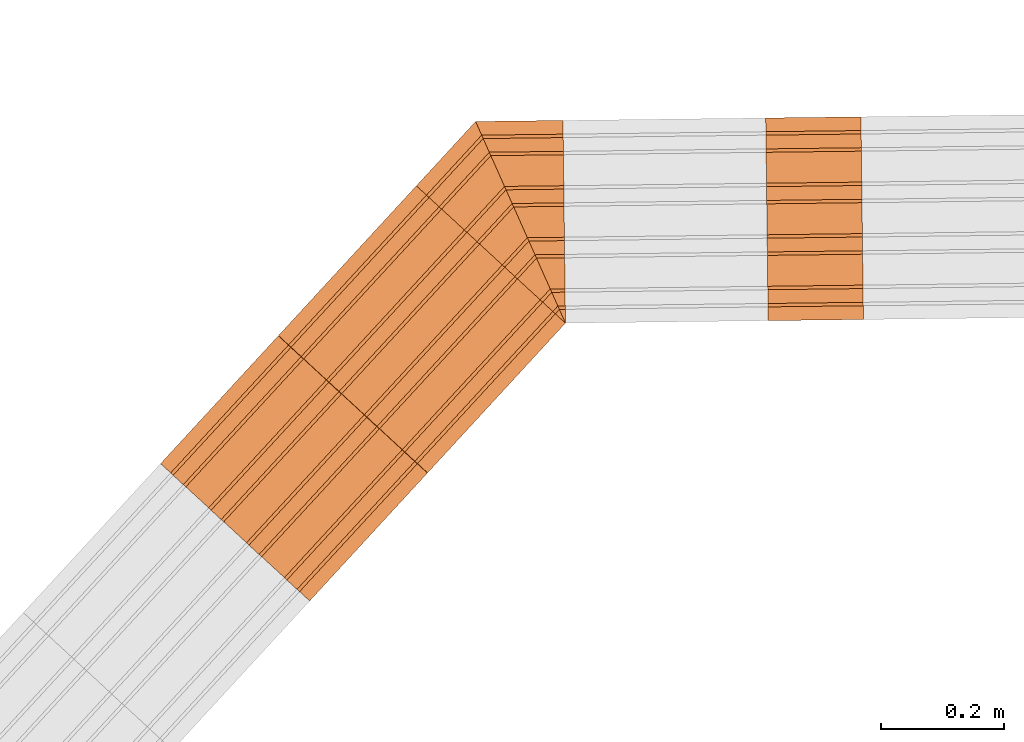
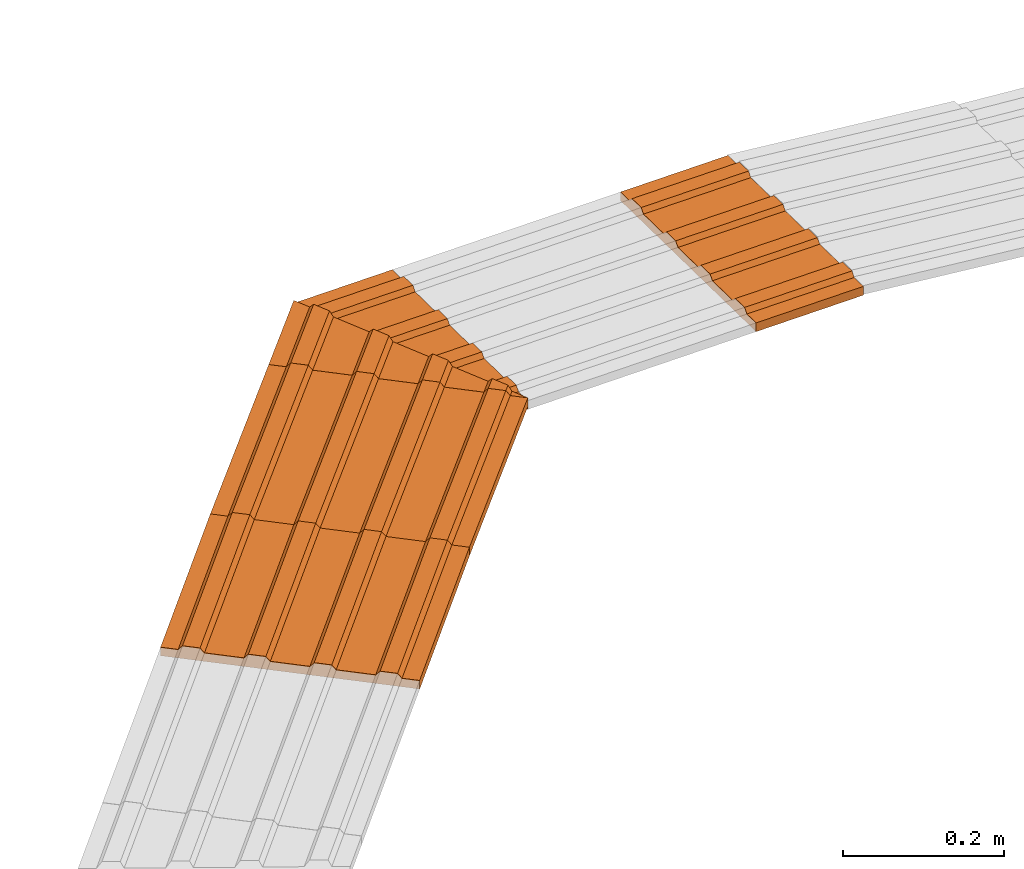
# One storey, part 223 of 237: 5 proxies.
"""IFC2X3 building model written with IfcOpenShell, lengths in millimetres."""

import ifcopenshell
import ifcopenshell.guid

model = None  # the IFC model being written
_history = None  # IfcOwnerHistory: only IFC2X3 demands one
_inside = {}  # id of a spatial element -> (the spatial element, [elements in it])
_under = {}  # id of a project, library or spatial element -> (it, [spatial elements below it])
_declared = {}  # id of a project -> (the project, [libraries it declares])
_typed = {}  # id of a type object -> (the type object, [elements of that type])
_made_of = {}  # id of a material, layer set ... -> (it, [elements and type objects made of it])


def new_model(schema):
    """Start an empty IFC model of exactly this schema.

    Asked for "IFC4X3", IfcOpenShell would pick the latest addendum, in which some entities
    have other attributes; the version numbers below select the first issue.
    IFC2X3 requires an IfcOwnerHistory on every rooted entity: one is made here for all.
    """
    global model, _history
    if schema == "IFC4X3":
        model = ifcopenshell.file(schema_version=(4, 3, 0, 0))
    else:
        model = ifcopenshell.file(schema=schema)
    _inside.clear()
    _under.clear()
    _declared.clear()
    _typed.clear()
    _made_of.clear()
    _history = None
    if model.schema == "IFC2X3":
        org = make("IfcOrganization", Name="unknown")
        user = make(
            "IfcPersonAndOrganization",
            ThePerson=make("IfcPerson", FamilyName="unknown"),
            TheOrganization=org,
        )
        app = make(
            "IfcApplication",
            ApplicationDeveloper=org,
            Version="unknown",
            ApplicationFullName="unknown",
            ApplicationIdentifier="unknown",
        )
        _history = make(
            "IfcOwnerHistory",
            OwningUser=user,
            OwningApplication=app,
            ChangeAction="ADDED",
            CreationDate=0,
        )
    return model


def make(cls, **values):
    """One entity of the class cls with the attributes given. An attribute that is None is left unset."""
    return model.create_entity(
        cls, **{name: value for name, value in values.items() if value is not None}
    )


def entity(cls, *values):
    """Any entity or typed value of the class cls, its attributes in the order of the schema. None: left unset."""
    e = model.create_entity(cls)
    for i, value in enumerate(values):
        if value is not None:
            e[i] = value
    return e


def rooted(cls, **values):
    """An entity with a GlobalId (a new one), such as an element, a storey or a relation."""
    return make(cls, GlobalId=ifcopenshell.guid.new(), OwnerHistory=_history, **values)


def si_unit(unit_type, name, prefix=None):
    """IfcSIUnit, for example si_unit("LENGTHUNIT", "METRE", prefix="MILLI")."""
    return make("IfcSIUnit", UnitType=unit_type, Prefix=prefix, Name=name)


def converted_unit(unit_type, name, factor, base, dimensions=None, offset=None):
    """IfcConversionBasedUnit, such as the inch: factor (a typed value) times the base unit."""
    return make(
        "IfcConversionBasedUnit"
        if offset is None
        else "IfcConversionBasedUnitWithOffset",
        ConversionOffset=offset,
        Dimensions=None
        if dimensions is None
        else entity("IfcDimensionalExponents", *dimensions),
        UnitType=unit_type,
        Name=name,
        ConversionFactor=make(
            "IfcMeasureWithUnit", ValueComponent=factor, UnitComponent=base
        ),
    )


def derived_unit(unit_type, elements):
    """IfcDerivedUnit: a product of units, each with its exponent."""
    return make(
        "IfcDerivedUnit",
        Elements=[
            make("IfcDerivedUnitElement", Unit=unit, Exponent=power)
            for unit, power in elements
        ],
        UnitType=unit_type,
    )


def money_unit(currency):
    """IfcMonetaryUnit."""
    return make("IfcMonetaryUnit", Currency=currency)


def assignment(units):
    """IfcUnitAssignment: the units of a project."""
    return None if units is None else make("IfcUnitAssignment", Units=units)


def point(xyz):
    """IfcCartesianPoint."""
    return None if xyz is None else make("IfcCartesianPoint", Coordinates=xyz)


def direction(xyz):
    """IfcDirection."""
    return None if xyz is None else make("IfcDirection", DirectionRatios=xyz)


def frame(location, z_axis=None, x_axis=None):
    """IfcAxis2Placement3D, a coordinate frame: its origin and axes. An axis left out is left unset."""
    return make(
        "IfcAxis2Placement3D",
        Location=point(location),
        Axis=direction(z_axis),
        RefDirection=direction(x_axis),
    )


def origin_with_axes():
    """The frame at (0, 0, 0) with the z axis (0, 0, 1) and the x axis (1, 0, 0) written out."""
    return frame((0.0, 0.0, 0.0), z_axis=(0.0, 0.0, 1.0), x_axis=(1.0, 0.0, 0.0))


def place(relative_to, where):
    """IfcLocalPlacement: puts the frame where relative to a parent placement (None: the world)."""
    return make(
        "IfcLocalPlacement", PlacementRelTo=relative_to, RelativePlacement=where
    )


def context(
    kind, dimensions, precision=None, world=None, true_north=None, identifier=None
):
    """IfcGeometricRepresentationContext, for example the 3D "Model" context."""
    return make(
        "IfcGeometricRepresentationContext",
        ContextIdentifier=identifier,
        ContextType=kind,
        CoordinateSpaceDimension=dimensions,
        Precision=precision,
        WorldCoordinateSystem=world,
        TrueNorth=true_north,
    )


def subcontext(parent, identifier, kind, view, scale=None):
    """IfcGeometricRepresentationSubContext, for example "Body" below "Model"."""
    return make(
        "IfcGeometricRepresentationSubContext",
        ContextIdentifier=identifier,
        ContextType=kind,
        ParentContext=parent,
        TargetScale=scale,
        TargetView=view,
    )


def project(units=None, contexts=None):
    """IfcProject with its units and contexts."""
    return rooted(
        "IfcProject",
        Name="project",
        RepresentationContexts=contexts,
        UnitsInContext=assignment(units),
    )


def spatial(cls, under=None, at=None, **own):
    """A site, building, storey or space (cls), placed at a placement, below another one or the project."""
    s = rooted(cls, ObjectPlacement=at, **own)
    if under is not None:
        _under.setdefault(under.id(), (under, []))[1].append(s)
    return s


def faces_of(points, faces, orient=None, outer=None):
    """IfcFace entities. A face is a list of loops; a loop is a list of indices into points, from 0.

    orient and outer hold one flag for each loop. By default every Orientation is true, the
    first loop of a face is its IfcFaceOuterBound and the others are IfcFaceBound.
    """
    made = []
    for i, loops in enumerate(faces):
        bounds = []
        for j, loop in enumerate(loops):
            is_outer = j == 0 if outer is None else outer[i][j]
            bounds.append(
                make(
                    "IfcFaceOuterBound" if is_outer else "IfcFaceBound",
                    Bound=make("IfcPolyLoop", Polygon=[points[k] for k in loop]),
                    Orientation=True if orient is None else orient[i][j],
                )
            )
        made.append(make("IfcFace", Bounds=bounds))
    return made


def open_shell(faces, orient=None, outer=None):
    """The faces of one IfcOpenShell. surface_model builds it on its shared points."""
    return ("IfcOpenShell", faces, orient, outer)


def faceted_brep(points, faces, orient=None, outer=None, voids=None):
    """IfcFacetedBrep: a solid bounded by flat faces; with voids (closed shells), ...WithVoids."""
    shared = [point(p) for p in points]
    hull = make("IfcClosedShell", CfsFaces=faces_of(shared, faces, orient, outer))
    if voids is None:
        return make("IfcFacetedBrep", Outer=hull)
    return make(
        "IfcFacetedBrepWithVoids",
        Outer=hull,
        Voids=[
            make(cls, CfsFaces=faces_of(shared, fs, o, b)) for cls, fs, o, b in voids
        ],
    )


def surface_model(cls, points, shells):
    """IfcFaceBasedSurfaceModel or IfcShellBasedSurfaceModel (cls): surfaces that need not close."""
    shared = [point(p) for p in points]
    made = [make(c, CfsFaces=faces_of(shared, fs, o, b)) for c, fs, o, b in shells]
    if cls == "IfcFaceBasedSurfaceModel":
        return make(cls, FbsmFaces=made)
    return make(cls, SbsmBoundary=made)


def shape(context_of_items, identifier, shape_type, items):
    """IfcShapeRepresentation: the items that make up one representation, for example the "Body"."""
    return make(
        "IfcShapeRepresentation",
        ContextOfItems=context_of_items,
        RepresentationIdentifier=identifier,
        RepresentationType=shape_type,
        Items=items,
    )


def made_of(thing, what):
    """Note that an element or type object is made of a material, layer set ...; save() writes the relation."""
    if what is not None:
        _made_of.setdefault(what.id(), (what, []))[1].append(thing)
    return thing


def type_object(cls, material=None, **own):
    """A type object (cls), such as IfcWallType, which elements share."""
    return made_of(rooted(cls, **own), material)


def element(
    cls,
    number,
    at=None,
    inside=None,
    cuts=None,
    type_object=None,
    material=None,
    context=None,
    identifier="Body",
    shape_type=None,
    held_by="IfcProductDefinitionShape",
    body=None,
    shapes=None,
    **own,
):
    """One element of the class cls, such as IfcWall. Its Tag is "e" and its number.

    at: its placement. inside: the storey or other place that contains it. cuts: it is an
    opening in that element (IfcRelVoidsElement). A single representation is given by context,
    identifier, shape_type and body (its items); several are given by shapes. held_by: the class
    of the entity that holds the representations. save() writes the other relations.
    """
    e = rooted(cls, Tag="e%d" % number, ObjectPlacement=at, **own)
    if body is not None:
        shapes = [shape(context, identifier, shape_type, body)]
    if shapes is not None:
        e.Representation = make(held_by, Representations=shapes)
    if inside is not None:
        _inside.setdefault(inside.id(), (inside, []))[1].append(e)
    if cuts is not None:
        rooted(
            "IfcRelVoidsElement", RelatingBuildingElement=cuts, RelatedOpeningElement=e
        )
    if type_object is not None:
        _typed.setdefault(type_object.id(), (type_object, []))[1].append(e)
    return made_of(e, material)


def aggregate(whole, parts):
    """IfcRelAggregates: a whole, such as a stair, and the parts it consists of."""
    return rooted("IfcRelAggregates", RelatingObject=whole, RelatedObjects=parts)


def save(model, path):
    """Write the relations noted so far, then the file.

    IfcRelAggregates (storeys below a building ...), IfcRelContainedInSpatialStructure (elements
    in a storey), IfcRelDefinesByType, IfcRelAssociatesMaterial and IfcRelDeclares: one each for
    every whole, place, type object, material and project.
    """
    for whole, parts in _under.values():
        aggregate(whole, parts)
    for where, things in _inside.values():
        rooted(
            "IfcRelContainedInSpatialStructure",
            RelatedElements=things,
            RelatingStructure=where,
        )
    for kind, things in _typed.values():
        rooted("IfcRelDefinesByType", RelatedObjects=things, RelatingType=kind)
    for what, things in _made_of.values():
        rooted("IfcRelAssociatesMaterial", RelatedObjects=things, RelatingMaterial=what)
    for by, libraries in _declared.values():
        rooted("IfcRelDeclares", RelatingContext=by, RelatedDefinitions=libraries)
    model.write(path)


model = new_model("IFC2X3")

# Units and contexts
model_context = context("Model", 3, precision=0.01, world=origin_with_axes(), true_north=direction((0.0, 1.0)))
body_context = subcontext(model_context, "Body", "Model", "MODEL_VIEW")
ifc_project = project(units=[si_unit("LENGTHUNIT", "METRE", prefix="MILLI"), si_unit("AREAUNIT", "SQUARE_METRE"), si_unit("VOLUMEUNIT", "CUBIC_METRE"), converted_unit("PLANEANGLEUNIT", "DEGREE", entity("IfcPlaneAngleMeasure", 0.0174532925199), si_unit("PLANEANGLEUNIT", "RADIAN"), dimensions=[0, 0, 0, 0, 0, 0, 0]), money_unit("USD"), converted_unit("TIMEUNIT", "Year", entity("IfcTimeMeasure", 31556926.0), si_unit("TIMEUNIT", "SECOND"), dimensions=[0, 0, 1, 0, 0, 0, 0]), si_unit("MASSUNIT", "GRAM", prefix="KILO"), si_unit("THERMODYNAMICTEMPERATUREUNIT", "DEGREE_CELSIUS"), si_unit("LUMINOUSINTENSITYUNIT", "LUMEN"), si_unit("ENERGYUNIT", "JOULE", prefix="MEGA"), derived_unit("THERMALCONDUCTANCEUNIT", [(si_unit("POWERUNIT", "WATT"), 1), (si_unit("LENGTHUNIT", "METRE"), -1), (si_unit("THERMODYNAMICTEMPERATUREUNIT", "KELVIN"), -1)]), derived_unit("SPECIFICHEATCAPACITYUNIT", [(si_unit("ENERGYUNIT", "JOULE"), 1), (si_unit("MASSUNIT", "GRAM", prefix="KILO"), -1), (si_unit("THERMODYNAMICTEMPERATUREUNIT", "KELVIN"), -1)]), derived_unit("MASSDENSITYUNIT", [(si_unit("MASSUNIT", "GRAM", prefix="KILO"), 1), (si_unit("VOLUMEUNIT", "CUBIC_METRE"), -1)])], contexts=[model_context])

# Site, building, storey
site_placement = place(None, origin_with_axes())
site = spatial("IfcSite", under=ifc_project, at=site_placement, Name="Local", CompositionType="ELEMENT")
building_placement = place(site_placement, origin_with_axes())
building = spatial("IfcBuilding", under=site, at=building_placement, Name="Construção", CompositionType="ELEMENT")
storey_placement = place(building_placement, origin_with_axes())
storey = spatial("IfcBuildingStorey", under=building, at=storey_placement, Name="Pavimento Térreo", CompositionType="ELEMENT", Elevation=0.0)

# Proxies
building_element_proxy_type_1 = type_object("IfcBuildingElementProxyType", Name="Piso Direcional 27", PredefinedType="NOTDEFINED")
proxy_1_placement = place(storey_placement, frame((48886.3520681, 36641.6889298, -1363.27878215), z_axis=(0.0, 0.0, 1.0), x_axis=(-0.999926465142, -0.012127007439, 0.0)))
element("IfcBuildingElementProxy", 1, at=proxy_1_placement, inside=storey, type_object=building_element_proxy_type_1, Name="Objeto-0055", context=body_context, shape_type="SurfaceModel", body=[
    surface_model("IfcShellBasedSurfaceModel", [(0.0, -47.2564877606, 4.02852049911), (155.131385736, -47.2564877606, 4.02852049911), (155.131385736, -41.6634730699, 10.6951871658), (0.0, -41.6634730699, 10.6951871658)], [open_shell([[[0, 1, 2, 3]]])]),
    surface_model("IfcShellBasedSurfaceModel", [(155.131385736, -153.523766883, -9.30481283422), (155.131385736, 176.464099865, -9.30481283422), (155.131385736, 176.464099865, 4.02852049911), (155.131385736, 154.092041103, 4.02852049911), (155.131385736, 148.499026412, 10.6951871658), (155.131385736, 126.12696765, 10.6951871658), (155.131385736, 120.533952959, 4.02852049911), (155.131385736, 70.1968207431, 4.02852049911), (155.131385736, 64.6038060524, 10.6951871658), (155.131385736, 42.2317472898, 10.6951871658), (155.131385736, 36.6387325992, 4.02852049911), (155.131385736, -13.6983996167, 4.02852049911), (155.131385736, -19.2914143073, 10.6951871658), (155.131385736, -41.6634730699, 10.6951871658), (155.131385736, -47.2564877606, 4.02852049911), (155.131385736, -97.5936199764, 4.02852049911), (155.131385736, -103.186634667, 10.6951871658), (155.131385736, -125.55869343, 10.6951871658), (155.131385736, -131.15170812, 4.02852049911), (155.131385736, -153.523766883, 4.02852049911)], [open_shell([[[0, 1, 2, 3, 4, 5, 6, 7, 8, 9, 10, 11, 12, 13, 14, 15, 16, 17, 18, 19]]])]),
    surface_model("IfcShellBasedSurfaceModel", [(0.0, -19.2914143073, 10.6951871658), (155.131385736, -19.2914143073, 10.6951871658), (155.131385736, -13.6983996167, 4.02852049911), (0.0, -13.6983996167, 4.02852049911)], [open_shell([[[0, 1, 2, 3]]])]),
    surface_model("IfcShellBasedSurfaceModel", [(0.0, -103.186634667, 10.6951871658), (155.131385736, -103.186634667, 10.6951871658), (155.131385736, -97.5936199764, 4.02852049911), (0.0, -97.5936199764, 4.02852049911)], [open_shell([[[0, 1, 2, 3]]])]),
    surface_model("IfcShellBasedSurfaceModel", [(0.0, 64.6038060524, 10.6951871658), (155.131385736, 64.6038060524, 10.6951871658), (155.131385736, 70.1968207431, 4.02852049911), (0.0, 70.1968207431, 4.02852049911)], [open_shell([[[0, 1, 2, 3]]])]),
    surface_model("IfcShellBasedSurfaceModel", [(0.0, 36.6387325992, 4.02852049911), (155.131385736, 36.6387325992, 4.02852049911), (155.131385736, 42.2317472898, 10.6951871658), (0.0, 42.2317472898, 10.6951871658)], [open_shell([[[0, 1, 2, 3]]])]),
    surface_model("IfcShellBasedSurfaceModel", [(0.0, -131.15170812, 4.02852049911), (155.131385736, -131.15170812, 4.02852049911), (155.131385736, -125.55869343, 10.6951871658), (0.0, -125.55869343, 10.6951871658)], [open_shell([[[0, 1, 2, 3]]])]),
    surface_model("IfcShellBasedSurfaceModel", [(0.0, 176.464099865, 4.02852049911), (0.0, 154.092041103, 4.02852049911), (155.131385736, 154.092041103, 4.02852049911), (155.131385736, 176.464099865, 4.02852049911)], [open_shell([[[0, 1, 2, 3]]])]),
    surface_model("IfcShellBasedSurfaceModel", [(0.0, 120.533952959, 4.02852049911), (155.131385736, 120.533952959, 4.02852049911), (155.131385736, 126.12696765, 10.6951871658), (0.0, 126.12696765, 10.6951871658)], [open_shell([[[0, 1, 2, 3]]])]),
    surface_model("IfcShellBasedSurfaceModel", [(0.0, 148.499026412, 10.6951871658), (155.131385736, 148.499026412, 10.6951871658), (155.131385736, 154.092041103, 4.02852049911), (0.0, 154.092041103, 4.02852049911)], [open_shell([[[0, 1, 2, 3]]])]),
    surface_model("IfcShellBasedSurfaceModel", [(0.0, 36.6387325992, 4.02852049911), (0.0, -13.6983996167, 4.02852049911), (155.131385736, -13.6983996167, 4.02852049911), (155.131385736, 36.6387325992, 4.02852049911)], [open_shell([[[0, 1, 2, 3]]])]),
    surface_model("IfcShellBasedSurfaceModel", [(0.0, 120.533952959, 4.02852049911), (0.0, 70.1968207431, 4.02852049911), (155.131385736, 70.1968207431, 4.02852049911), (155.131385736, 120.533952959, 4.02852049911)], [open_shell([[[0, 1, 2, 3]]])]),
    surface_model("IfcShellBasedSurfaceModel", [(0.0, 148.499026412, 10.6951871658), (0.0, 126.12696765, 10.6951871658), (155.131385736, 126.12696765, 10.6951871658), (155.131385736, 148.499026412, 10.6951871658)], [open_shell([[[0, 1, 2, 3]]])]),
    surface_model("IfcShellBasedSurfaceModel", [(0.0, 120.533952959, 4.02852049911), (0.0, 126.12696765, 10.6951871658), (0.0, 148.499026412, 10.6951871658), (0.0, 154.092041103, 4.02852049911), (0.0, 176.464099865, 4.02852049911), (0.0, 176.464099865, -9.30481283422), (0.0, -153.523766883, -9.30481283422), (0.0, -153.523766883, 4.02852049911), (0.0, -131.15170812, 4.02852049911), (0.0, -125.55869343, 10.6951871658), (0.0, -103.186634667, 10.6951871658), (0.0, -97.5936199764, 4.02852049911), (0.0, -47.2564877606, 4.02852049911), (0.0, -41.6634730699, 10.6951871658), (0.0, -19.2914143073, 10.6951871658), (0.0, -13.6983996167, 4.02852049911), (0.0, 36.6387325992, 4.02852049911), (0.0, 42.2317472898, 10.6951871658), (0.0, 64.6038060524, 10.6951871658), (0.0, 70.1968207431, 4.02852049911)], [open_shell([[[0, 1, 2, 3, 4, 5, 6, 7, 8, 9, 10, 11, 12, 13, 14, 15, 16, 17, 18, 19]]])]),
    surface_model("IfcShellBasedSurfaceModel", [(155.131385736, -41.6634730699, 10.6951871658), (155.131385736, -19.2914143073, 10.6951871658), (0.0, -19.2914143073, 10.6951871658), (0.0, -41.6634730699, 10.6951871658)], [open_shell([[[0, 1, 2, 3]]])]),
    surface_model("IfcShellBasedSurfaceModel", [(0.0, -47.2564877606, 4.02852049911), (0.0, -97.5936199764, 4.02852049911), (155.131385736, -97.5936199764, 4.02852049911), (155.131385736, -47.2564877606, 4.02852049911)], [open_shell([[[0, 1, 2, 3]]])]),
    surface_model("IfcShellBasedSurfaceModel", [(155.131385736, 42.2317472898, 10.6951871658), (155.131385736, 64.6038060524, 10.6951871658), (0.0, 64.6038060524, 10.6951871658), (0.0, 42.2317472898, 10.6951871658)], [open_shell([[[0, 1, 2, 3]]])]),
    surface_model("IfcShellBasedSurfaceModel", [(155.131385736, -125.55869343, 10.6951871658), (155.131385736, -103.186634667, 10.6951871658), (0.0, -103.186634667, 10.6951871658), (0.0, -125.55869343, 10.6951871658)], [open_shell([[[0, 1, 2, 3]]])]),
    surface_model("IfcShellBasedSurfaceModel", [(155.131385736, 176.464099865, -9.30481283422), (0.0, 176.464099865, -9.30481283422), (0.0, 176.464099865, 4.02852049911), (155.131385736, 176.464099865, 4.02852049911)], [open_shell([[[0, 1, 2, 3]]])]),
    surface_model("IfcShellBasedSurfaceModel", [(155.131385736, -153.523766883, -9.30481283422), (0.0, -153.523766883, -9.30481283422), (0.0, 176.464099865, -9.30481283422), (155.131385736, 176.464099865, -9.30481283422)], [open_shell([[[0, 1, 2, 3]]])]),
    surface_model("IfcShellBasedSurfaceModel", [(155.131385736, -153.523766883, 4.02852049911), (155.131385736, -131.15170812, 4.02852049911), (0.0, -131.15170812, 4.02852049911), (0.0, -153.523766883, 4.02852049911)], [open_shell([[[0, 1, 2, 3]]])]),
    surface_model("IfcShellBasedSurfaceModel", [(0.0, -153.523766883, -9.30481283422), (155.131385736, -153.523766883, -9.30481283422), (155.131385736, -153.523766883, 4.02852049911), (0.0, -153.523766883, 4.02852049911)], [open_shell([[[0, 1, 2, 3]]])]),
])
proxy_2_placement = place(storey_placement, frame((48048.8815666, 36334.8368077, -1358.99393833), z_axis=(0.0, 0.0, 1.0), x_axis=(-0.677327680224, -0.735681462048, 0.0)))
element("IfcBuildingElementProxy", 2, at=proxy_2_placement, inside=storey, type_object=building_element_proxy_type_1, Name="Objeto-0055", context=body_context, shape_type="SurfaceModel", body=[
    surface_model("IfcShellBasedSurfaceModel", [(0.126538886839, -47.258225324, 4.02653266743), (283.07846893, -47.258225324, -4.8655899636), (283.287873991, -41.665004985, 1.79778710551), (0.33594394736, -41.665004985, 10.6899097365)], [open_shell([[[0, 1, 2, 3]]])]),
    surface_model("IfcShellBasedSurfaceModel", [(282.659658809, -153.529411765, -18.1923441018), (282.659658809, 176.470588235, -18.1923441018), (283.07846893, 176.470588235, -4.8655899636), (283.07846893, 154.097706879, -4.8655899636), (283.287873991, 148.50448654, 1.79778710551), (283.287873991, 126.131605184, 1.79778710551), (283.07846893, 120.538384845, -4.8655899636), (283.07846893, 70.1994017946, -4.8655899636), (283.287873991, 64.6061814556, 1.79778710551), (283.287873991, 42.2333000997, 1.79778710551), (283.07846893, 36.6400797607, -4.8655899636), (283.07846893, -13.6989032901, -4.8655899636), (283.287873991, -19.2921236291, 1.79778710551), (283.287873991, -41.665004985, 1.79778710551), (283.07846893, -47.258225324, -4.8655899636), (283.07846893, -97.5972083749, -4.8655899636), (283.287873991, -103.190428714, 1.79778710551), (283.287873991, -125.56331007, 1.79778710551), (283.07846893, -131.156530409, -4.8655899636), (283.07846893, -153.529411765, -4.8655899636)], [open_shell([[[0, 1, 2, 3, 4, 5, 6, 7, 8, 9, 10, 11, 12, 13, 14, 15, 16, 17, 18, 19]]])]),
    surface_model("IfcShellBasedSurfaceModel", [(0.33594394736, -19.2921236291, 10.6899097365), (283.287873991, -19.2921236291, 1.79778710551), (283.07846893, -13.6989032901, -4.8655899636), (0.126538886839, -13.6989032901, 4.02653266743)], [open_shell([[[0, 1, 2, 3]]])]),
    surface_model("IfcShellBasedSurfaceModel", [(0.33594394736, -103.190428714, 10.6899097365), (283.287873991, -103.190428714, 1.79778710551), (283.07846893, -97.5972083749, -4.8655899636), (0.126538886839, -97.5972083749, 4.02653266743)], [open_shell([[[0, 1, 2, 3]]])]),
    surface_model("IfcShellBasedSurfaceModel", [(0.33594394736, 64.6061814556, 10.6899097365), (283.287873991, 64.6061814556, 1.79778710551), (283.07846893, 70.1994017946, -4.8655899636), (0.126538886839, 70.1994017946, 4.02653266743)], [open_shell([[[0, 1, 2, 3]]])]),
    surface_model("IfcShellBasedSurfaceModel", [(0.126538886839, 36.6400797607, 4.02653266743), (283.07846893, 36.6400797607, -4.8655899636), (283.287873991, 42.2333000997, 1.79778710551), (0.33594394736, 42.2333000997, 10.6899097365)], [open_shell([[[0, 1, 2, 3]]])]),
    surface_model("IfcShellBasedSurfaceModel", [(0.126538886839, -131.156530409, 4.02653266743), (283.07846893, -131.156530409, -4.8655899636), (283.287873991, -125.56331007, 1.79778710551), (0.33594394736, -125.56331007, 10.6899097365)], [open_shell([[[0, 1, 2, 3]]])]),
    surface_model("IfcShellBasedSurfaceModel", [(0.126538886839, 176.470588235, 4.02653266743), (0.126538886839, 154.097706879, 4.02653266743), (283.07846893, 154.097706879, -4.8655899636), (283.07846893, 176.470588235, -4.8655899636)], [open_shell([[[0, 1, 2, 3]]])]),
    surface_model("IfcShellBasedSurfaceModel", [(0.126538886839, 120.538384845, 4.02653266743), (283.07846893, 120.538384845, -4.8655899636), (283.287873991, 126.131605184, 1.79778710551), (0.33594394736, 126.131605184, 10.6899097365)], [open_shell([[[0, 1, 2, 3]]])]),
    surface_model("IfcShellBasedSurfaceModel", [(0.33594394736, 148.50448654, 10.6899097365), (283.287873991, 148.50448654, 1.79778710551), (283.07846893, 154.097706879, -4.8655899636), (0.126538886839, 154.097706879, 4.02653266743)], [open_shell([[[0, 1, 2, 3]]])]),
    surface_model("IfcShellBasedSurfaceModel", [(0.126538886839, 36.6400797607, 4.02653266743), (0.126538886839, -13.6989032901, 4.02653266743), (283.07846893, -13.6989032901, -4.8655899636), (283.07846893, 36.6400797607, -4.8655899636)], [open_shell([[[0, 1, 2, 3]]])]),
    surface_model("IfcShellBasedSurfaceModel", [(0.126538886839, 120.538384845, 4.02653266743), (0.126538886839, 70.1994017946, 4.02653266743), (283.07846893, 70.1994017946, -4.8655899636), (283.07846893, 120.538384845, -4.8655899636)], [open_shell([[[0, 1, 2, 3]]])]),
    surface_model("IfcShellBasedSurfaceModel", [(0.33594394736, 148.50448654, 10.6899097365), (0.33594394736, 126.131605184, 10.6899097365), (283.287873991, 126.131605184, 1.79778710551), (283.287873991, 148.50448654, 1.79778710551)], [open_shell([[[0, 1, 2, 3]]])]),
    surface_model("IfcShellBasedSurfaceModel", [(0.126538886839, 120.538384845, 4.02653266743), (0.33594394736, 126.131605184, 10.6899097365), (0.33594394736, 148.50448654, 10.6899097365), (0.126538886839, 154.097706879, 4.02653266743), (0.126538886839, 176.470588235, 4.02653266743), (-0.292271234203, 176.470588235, -9.30022147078), (-0.292271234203, -153.529411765, -9.30022147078), (0.126538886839, -153.529411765, 4.02653266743), (0.126538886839, -131.156530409, 4.02653266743), (0.33594394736, -125.56331007, 10.6899097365), (0.33594394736, -103.190428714, 10.6899097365), (0.126538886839, -97.5972083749, 4.02653266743), (0.126538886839, -47.258225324, 4.02653266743), (0.33594394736, -41.665004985, 10.6899097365), (0.33594394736, -19.2921236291, 10.6899097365), (0.126538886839, -13.6989032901, 4.02653266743), (0.126538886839, 36.6400797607, 4.02653266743), (0.33594394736, 42.2333000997, 10.6899097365), (0.33594394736, 64.6061814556, 10.6899097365), (0.126538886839, 70.1994017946, 4.02653266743)], [open_shell([[[0, 1, 2, 3, 4, 5, 6, 7, 8, 9, 10, 11, 12, 13, 14, 15, 16, 17, 18, 19]]])]),
    surface_model("IfcShellBasedSurfaceModel", [(283.287873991, -41.665004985, 1.79778710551), (283.287873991, -19.2921236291, 1.79778710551), (0.33594394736, -19.2921236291, 10.6899097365), (0.33594394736, -41.665004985, 10.6899097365)], [open_shell([[[0, 1, 2, 3]]])]),
    surface_model("IfcShellBasedSurfaceModel", [(0.126538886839, -47.258225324, 4.02653266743), (0.126538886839, -97.5972083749, 4.02653266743), (283.07846893, -97.5972083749, -4.8655899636), (283.07846893, -47.258225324, -4.8655899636)], [open_shell([[[0, 1, 2, 3]]])]),
    surface_model("IfcShellBasedSurfaceModel", [(283.287873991, 42.2333000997, 1.79778710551), (283.287873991, 64.6061814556, 1.79778710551), (0.33594394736, 64.6061814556, 10.6899097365), (0.33594394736, 42.2333000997, 10.6899097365)], [open_shell([[[0, 1, 2, 3]]])]),
    surface_model("IfcShellBasedSurfaceModel", [(283.287873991, -125.56331007, 1.79778710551), (283.287873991, -103.190428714, 1.79778710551), (0.33594394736, -103.190428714, 10.6899097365), (0.33594394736, -125.56331007, 10.6899097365)], [open_shell([[[0, 1, 2, 3]]])]),
    surface_model("IfcShellBasedSurfaceModel", [(282.659658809, 176.470588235, -18.1923441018), (-0.292271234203, 176.470588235, -9.30022147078), (0.126538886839, 176.470588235, 4.02653266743), (283.07846893, 176.470588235, -4.8655899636)], [open_shell([[[0, 1, 2, 3]]])]),
    surface_model("IfcShellBasedSurfaceModel", [(282.659658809, -153.529411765, -18.1923441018), (-0.292271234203, -153.529411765, -9.30022147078), (-0.292271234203, 176.470588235, -9.30022147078), (282.659658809, 176.470588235, -18.1923441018)], [open_shell([[[0, 1, 2, 3]]])]),
    surface_model("IfcShellBasedSurfaceModel", [(283.07846893, -153.529411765, -4.8655899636), (283.07846893, -131.156530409, -4.8655899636), (0.126538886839, -131.156530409, 4.02653266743), (0.126538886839, -153.529411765, 4.02653266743)], [open_shell([[[0, 1, 2, 3]]])]),
    surface_model("IfcShellBasedSurfaceModel", [(-0.292271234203, -153.529411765, -9.30022147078), (282.659658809, -153.529411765, -18.1923441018), (283.07846893, -153.529411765, -4.8655899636), (0.126538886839, -153.529411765, 4.02653266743)], [open_shell([[[0, 1, 2, 3]]])]),
])
proxy_3_placement = place(storey_placement, frame((48273.5701975, 36578.8830284, -1358.99921576), z_axis=(0.0, 0.0, 1.0), x_axis=(-0.677327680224, -0.735681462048, 0.0)))
element("IfcBuildingElementProxy", 3, at=proxy_3_placement, inside=storey, type_object=building_element_proxy_type_1, Name="Objeto-0055", context=body_context, shape_type="SurfaceModel", body=[
    surface_model("IfcShellBasedSurfaceModel", [(0.0, -47.258225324, 4.02852049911), (332.064053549, -47.258225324, 4.02852049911), (332.064053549, -41.665004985, 10.6951871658), (0.0, -41.665004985, 10.6951871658)], [open_shell([[[0, 1, 2, 3]]])]),
    surface_model("IfcShellBasedSurfaceModel", [(332.064053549, -153.529411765, -9.30481283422), (332.064053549, 176.470588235, -9.30481283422), (332.064053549, 176.470588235, 4.02852049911), (332.064053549, 154.097706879, 4.02852049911), (332.064053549, 148.50448654, 10.6951871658), (332.064053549, 126.131605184, 10.6951871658), (332.064053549, 120.538384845, 4.02852049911), (332.064053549, 70.1994017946, 4.02852049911), (332.064053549, 64.6061814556, 10.6951871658), (332.064053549, 42.2333000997, 10.6951871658), (332.064053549, 36.6400797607, 4.02852049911), (332.064053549, -13.6989032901, 4.02852049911), (332.064053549, -19.2921236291, 10.6951871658), (332.064053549, -41.665004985, 10.6951871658), (332.064053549, -47.258225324, 4.02852049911), (332.064053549, -97.5972083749, 4.02852049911), (332.064053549, -103.190428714, 10.6951871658), (332.064053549, -125.56331007, 10.6951871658), (332.064053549, -131.156530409, 4.02852049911), (332.064053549, -153.529411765, 4.02852049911)], [open_shell([[[0, 1, 2, 3, 4, 5, 6, 7, 8, 9, 10, 11, 12, 13, 14, 15, 16, 17, 18, 19]]])]),
    surface_model("IfcShellBasedSurfaceModel", [(0.0, -19.2921236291, 10.6951871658), (332.064053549, -19.2921236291, 10.6951871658), (332.064053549, -13.6989032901, 4.02852049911), (0.0, -13.6989032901, 4.02852049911)], [open_shell([[[0, 1, 2, 3]]])]),
    surface_model("IfcShellBasedSurfaceModel", [(0.0, -103.190428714, 10.6951871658), (332.064053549, -103.190428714, 10.6951871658), (332.064053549, -97.5972083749, 4.02852049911), (0.0, -97.5972083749, 4.02852049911)], [open_shell([[[0, 1, 2, 3]]])]),
    surface_model("IfcShellBasedSurfaceModel", [(0.0, 64.6061814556, 10.6951871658), (332.064053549, 64.6061814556, 10.6951871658), (332.064053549, 70.1994017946, 4.02852049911), (0.0, 70.1994017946, 4.02852049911)], [open_shell([[[0, 1, 2, 3]]])]),
    surface_model("IfcShellBasedSurfaceModel", [(0.0, 36.6400797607, 4.02852049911), (332.064053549, 36.6400797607, 4.02852049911), (332.064053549, 42.2333000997, 10.6951871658), (0.0, 42.2333000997, 10.6951871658)], [open_shell([[[0, 1, 2, 3]]])]),
    surface_model("IfcShellBasedSurfaceModel", [(0.0, -131.156530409, 4.02852049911), (332.064053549, -131.156530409, 4.02852049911), (332.064053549, -125.56331007, 10.6951871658), (0.0, -125.56331007, 10.6951871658)], [open_shell([[[0, 1, 2, 3]]])]),
    surface_model("IfcShellBasedSurfaceModel", [(0.0, 176.470588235, 4.02852049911), (0.0, 154.097706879, 4.02852049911), (332.064053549, 154.097706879, 4.02852049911), (332.064053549, 176.470588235, 4.02852049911)], [open_shell([[[0, 1, 2, 3]]])]),
    surface_model("IfcShellBasedSurfaceModel", [(0.0, 120.538384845, 4.02852049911), (332.064053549, 120.538384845, 4.02852049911), (332.064053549, 126.131605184, 10.6951871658), (0.0, 126.131605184, 10.6951871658)], [open_shell([[[0, 1, 2, 3]]])]),
    surface_model("IfcShellBasedSurfaceModel", [(0.0, 148.50448654, 10.6951871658), (332.064053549, 148.50448654, 10.6951871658), (332.064053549, 154.097706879, 4.02852049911), (0.0, 154.097706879, 4.02852049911)], [open_shell([[[0, 1, 2, 3]]])]),
    surface_model("IfcShellBasedSurfaceModel", [(0.0, 36.6400797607, 4.02852049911), (0.0, -13.6989032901, 4.02852049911), (332.064053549, -13.6989032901, 4.02852049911), (332.064053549, 36.6400797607, 4.02852049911)], [open_shell([[[0, 1, 2, 3]]])]),
    surface_model("IfcShellBasedSurfaceModel", [(0.0, 120.538384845, 4.02852049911), (0.0, 70.1994017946, 4.02852049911), (332.064053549, 70.1994017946, 4.02852049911), (332.064053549, 120.538384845, 4.02852049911)], [open_shell([[[0, 1, 2, 3]]])]),
    surface_model("IfcShellBasedSurfaceModel", [(0.0, 148.50448654, 10.6951871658), (0.0, 126.131605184, 10.6951871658), (332.064053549, 126.131605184, 10.6951871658), (332.064053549, 148.50448654, 10.6951871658)], [open_shell([[[0, 1, 2, 3]]])]),
    surface_model("IfcShellBasedSurfaceModel", [(0.0, 120.538384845, 4.02852049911), (0.0, 126.131605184, 10.6951871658), (0.0, 148.50448654, 10.6951871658), (0.0, 154.097706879, 4.02852049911), (0.0, 176.470588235, 4.02852049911), (0.0, 176.470588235, -9.30481283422), (0.0, -153.529411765, -9.30481283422), (0.0, -153.529411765, 4.02852049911), (0.0, -131.156530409, 4.02852049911), (0.0, -125.56331007, 10.6951871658), (0.0, -103.190428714, 10.6951871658), (0.0, -97.5972083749, 4.02852049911), (0.0, -47.258225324, 4.02852049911), (0.0, -41.665004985, 10.6951871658), (0.0, -19.2921236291, 10.6951871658), (0.0, -13.6989032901, 4.02852049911), (0.0, 36.6400797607, 4.02852049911), (0.0, 42.2333000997, 10.6951871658), (0.0, 64.6061814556, 10.6951871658), (0.0, 70.1994017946, 4.02852049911)], [open_shell([[[0, 1, 2, 3, 4, 5, 6, 7, 8, 9, 10, 11, 12, 13, 14, 15, 16, 17, 18, 19]]])]),
    surface_model("IfcShellBasedSurfaceModel", [(332.064053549, -41.665004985, 10.6951871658), (332.064053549, -19.2921236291, 10.6951871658), (0.0, -19.2921236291, 10.6951871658), (0.0, -41.665004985, 10.6951871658)], [open_shell([[[0, 1, 2, 3]]])]),
    surface_model("IfcShellBasedSurfaceModel", [(0.0, -47.258225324, 4.02852049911), (0.0, -97.5972083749, 4.02852049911), (332.064053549, -97.5972083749, 4.02852049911), (332.064053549, -47.258225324, 4.02852049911)], [open_shell([[[0, 1, 2, 3]]])]),
    surface_model("IfcShellBasedSurfaceModel", [(332.064053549, 42.2333000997, 10.6951871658), (332.064053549, 64.6061814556, 10.6951871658), (0.0, 64.6061814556, 10.6951871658), (0.0, 42.2333000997, 10.6951871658)], [open_shell([[[0, 1, 2, 3]]])]),
    surface_model("IfcShellBasedSurfaceModel", [(332.064053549, -125.56331007, 10.6951871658), (332.064053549, -103.190428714, 10.6951871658), (0.0, -103.190428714, 10.6951871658), (0.0, -125.56331007, 10.6951871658)], [open_shell([[[0, 1, 2, 3]]])]),
    surface_model("IfcShellBasedSurfaceModel", [(332.064053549, 176.470588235, -9.30481283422), (0.0, 176.470588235, -9.30481283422), (0.0, 176.470588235, 4.02852049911), (332.064053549, 176.470588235, 4.02852049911)], [open_shell([[[0, 1, 2, 3]]])]),
    surface_model("IfcShellBasedSurfaceModel", [(332.064053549, -153.529411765, -9.30481283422), (0.0, -153.529411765, -9.30481283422), (0.0, 176.470588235, -9.30481283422), (332.064053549, 176.470588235, -9.30481283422)], [open_shell([[[0, 1, 2, 3]]])]),
    surface_model("IfcShellBasedSurfaceModel", [(332.064053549, -153.529411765, 4.02852049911), (332.064053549, -131.156530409, 4.02852049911), (0.0, -131.156530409, 4.02852049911), (0.0, -153.529411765, 4.02852049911)], [open_shell([[[0, 1, 2, 3]]])]),
    surface_model("IfcShellBasedSurfaceModel", [(0.0, -153.529411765, -9.30481283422), (332.064053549, -153.529411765, -9.30481283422), (332.064053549, -153.529411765, 4.02852049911), (0.0, -153.529411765, 4.02852049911)], [open_shell([[[0, 1, 2, 3]]])]),
])
building_element_proxy_type_2 = type_object("IfcBuildingElementProxyType", Name="FALTA", PredefinedType="NOTDEFINED")
proxy_4_placement = place(storey_placement, frame((48495.6902914, 36820.1394249, -1358.99921576), z_axis=(0.0, 0.0, 1.0), x_axis=(-0.677327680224, -0.735681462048, 0.0)))
element("IfcBuildingElementProxy", 4, at=proxy_4_placement, inside=storey, type_object=building_element_proxy_type_2, Name="Objeto-0055", context=body_context, shape_type="Brep", body=[
    faceted_brep([(195.227988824, -131.156530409, 4.02852049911), (185.576500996, -153.529411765, 4.02852049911), (327.935946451, -153.529411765, 4.02852049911), (327.935946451, -131.156530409, 4.02852049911), (197.640860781, -125.56331007, 10.6951871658), (207.292348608, -103.190428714, 10.6951871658), (209.705220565, -97.5972083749, 4.02852049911), (231.421068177, -47.258225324, 4.02852049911), (233.833940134, -41.665004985, 10.6951871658), (243.485427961, -19.2921236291, 10.6951871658), (245.898299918, -13.6989032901, 4.02852049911), (267.61414753, 36.6400797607, 4.02852049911), (270.027019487, 42.2333000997, 10.6951871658), (279.678507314, 64.6061814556, 10.6951871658), (282.091379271, 70.1994017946, 4.02852049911), (303.807226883, 120.538384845, 4.02852049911), (306.220098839, 126.131605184, 10.6951871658), (315.871586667, 148.50448654, 10.6951871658), (318.284458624, 154.097706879, 4.02852049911), (327.935946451, 176.470588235, 4.02852049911), (327.935946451, 176.470588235, -9.30481283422), (185.576500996, -153.529411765, -9.30481283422), (327.935946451, -153.529411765, -9.30481283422), (327.935946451, -41.665004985, 10.6951871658), (327.935946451, -47.258225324, 4.02852049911), (327.935946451, -97.5972083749, 4.02852049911), (327.935946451, -103.190428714, 10.6951871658), (327.935946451, -125.56331007, 10.6951871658), (327.935946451, 154.097706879, 4.02852049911), (327.935946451, 148.50448654, 10.6951871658), (327.935946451, 126.131605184, 10.6951871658), (327.935946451, 120.538384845, 4.02852049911), (327.935946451, 70.1994017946, 4.02852049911), (327.935946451, 64.6061814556, 10.6951871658), (327.935946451, 42.2333000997, 10.6951871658), (327.935946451, 36.6400797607, 4.02852049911), (327.935946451, -13.6989032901, 4.02852049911), (327.935946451, -19.2921236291, 10.6951871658)], [[[0, 1, 2, 3]], [[1, 0, 4, 5, 6, 7, 8, 9, 10, 11, 12, 13, 14, 15, 16, 17, 18, 19, 20, 21]], [[1, 21, 22, 2]], [[23, 24, 25, 26, 27, 3, 2, 22, 20, 19, 28, 29, 30, 31, 32, 33, 34, 35, 36, 37]], [[4, 0, 3, 27]], [[5, 4, 27, 26]], [[6, 5, 26, 25]], [[24, 7, 6, 25]], [[7, 24, 23, 8]], [[9, 8, 23, 37]], [[10, 9, 37, 36]], [[11, 10, 36, 35]], [[12, 11, 35, 34]], [[13, 12, 34, 33]], [[14, 13, 33, 32]], [[14, 32, 31, 15]], [[15, 31, 30, 16]], [[16, 30, 29, 17]], [[28, 18, 17, 29]], [[18, 28, 19]], [[22, 21, 20]]]),
])
proxy_5_placement = place(storey_placement, frame((48401.2562778, 36635.8122257, -1363.27878215), z_axis=(0.0, 0.0, 1.0), x_axis=(-0.999926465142, -0.012127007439, 0.0)))
element("IfcBuildingElementProxy", 5, at=proxy_5_placement, inside=storey, type_object=building_element_proxy_type_2, Name="Objeto-0055", context=body_context, shape_type="Brep", body=[
    faceted_brep([(0.0, -103.190428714, 10.6951871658), (0.0, -97.5972083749, 4.02852049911), (0.0, -47.258225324, 4.02852049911), (0.0, -41.665004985, 10.6951871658), (0.0, -19.2921236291, 10.6951871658), (0.0, -13.6989032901, 4.02852049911), (0.0, 36.6400797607, 4.02852049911), (0.0, 42.2333000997, 10.6951871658), (0.0, 64.6061814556, 10.6951871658), (0.0, 70.1994017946, 4.02852049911), (0.0, 120.538384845, 4.02852049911), (0.0, 126.131605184, 10.6951871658), (0.0, 148.50448654, 10.6951871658), (0.0, 154.097706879, 4.02852049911), (0.0, 176.470588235, 4.02852049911), (0.0, 176.470588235, -9.30481283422), (0.0, -153.529411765, -9.30481283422), (0.0, -153.529411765, 4.02852049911), (0.0, -131.156530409, 4.02852049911), (0.0, -125.56331007, 10.6951871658), (120.643597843, -103.190428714, 10.6951871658), (118.230725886, -97.5972083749, 4.02852049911), (96.5148782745, -47.258225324, 4.02852049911), (94.1020063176, -41.665004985, 10.6951871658), (84.4505184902, -19.2921236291, 10.6951871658), (82.0376465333, -13.6989032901, 4.02852049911), (60.3217989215, 36.6400797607, 4.02852049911), (57.9089269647, 42.2333000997, 10.6951871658), (48.2574391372, 64.6061814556, 10.6951871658), (45.8445671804, 70.1994017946, 4.02852049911), (24.1287195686, 120.538384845, 4.02852049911), (21.7158476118, 126.131605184, 10.6951871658), (12.0643597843, 148.50448654, 10.6951871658), (9.65148782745, 154.097706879, 4.02852049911), (130.295085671, -125.56331007, 10.6951871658), (132.707957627, -131.156530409, 4.02852049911), (142.359445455, -153.529411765, 4.02852049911), (142.359445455, -153.529411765, -9.30481283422)], [[[0, 1, 2, 3, 4, 5, 6, 7, 8, 9, 10, 11, 12, 13, 14, 15, 16, 17, 18, 19]], [[1, 0, 20, 21]], [[22, 2, 1, 21]], [[3, 2, 22, 23]], [[3, 23, 24, 4]], [[5, 4, 24, 25]], [[6, 5, 25, 26]], [[7, 6, 26, 27]], [[28, 8, 7, 27]], [[9, 8, 28, 29]], [[10, 9, 29, 30]], [[11, 10, 30, 31]], [[12, 11, 31, 32]], [[13, 12, 32, 33]], [[13, 33, 14]], [[15, 14, 33, 32, 31, 30, 29, 28, 27, 26, 25, 24, 23, 22, 21, 20, 34, 35, 36, 37]], [[16, 15, 37]], [[17, 16, 37, 36]], [[35, 18, 17, 36]], [[19, 18, 35, 34]], [[20, 0, 19, 34]]]),
])

save(model, "model.ifc")
